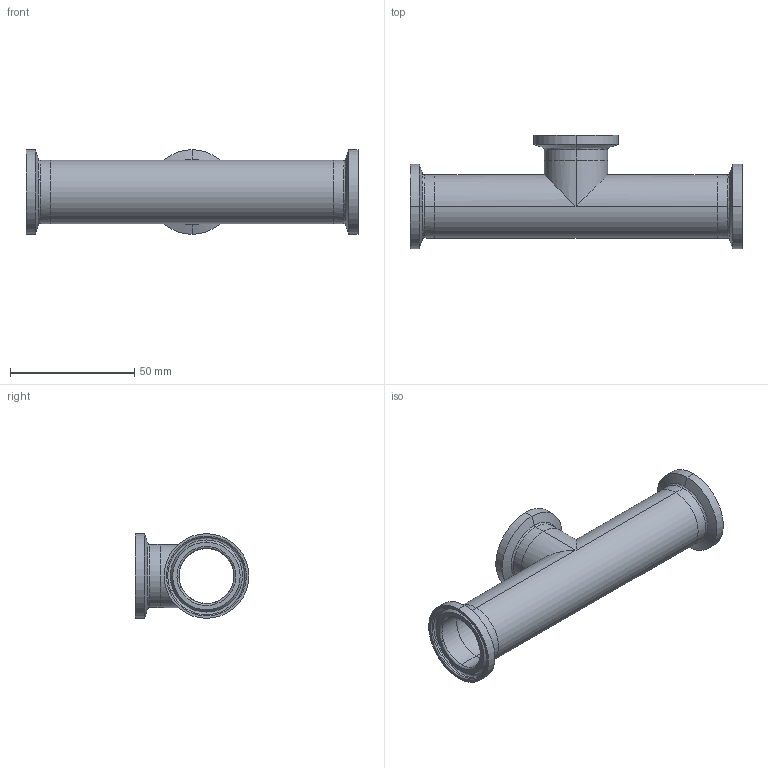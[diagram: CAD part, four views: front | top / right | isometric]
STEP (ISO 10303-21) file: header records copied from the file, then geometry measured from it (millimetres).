
FILE_DESCRIPTION (( 'STEP AP214' ), '1' );
FILE_NAME ('TEG7S6L1.0-.._Type A.STEP', '2016-05-24T12:22:50', ( 'eran' ), ( '' ), 'SwSTEP 2.0', 'SolidWorks 2016', '' );
FILE_SCHEMA (( 'AUTOMOTIVE_DESIGN' ));
Length unit declared in the file: millimetre
Products named in the file (1): TEG7S6L1.0-.._Type A
Bounding box: 133.4 x 45.61 x 34.01 mm (x, y, z)
Volume: 21920.8 mm3; surface area: 25810 mm2
Topology: 4 solids, 4 shells, 82 faces, 192 edges, 120 vertices
Faces by surface type: cylinder 34, bspline 24, plane 12, cone 12
Entity records: 2737 total; most frequent: CARTESIAN_POINT 803, DIRECTION 422, ORIENTED_EDGE 384, EDGE_CURVE 192, AXIS2_PLACEMENT_3D 187, CIRCLE 128, VERTEX_POINT 120, EDGE_LOOP 94
